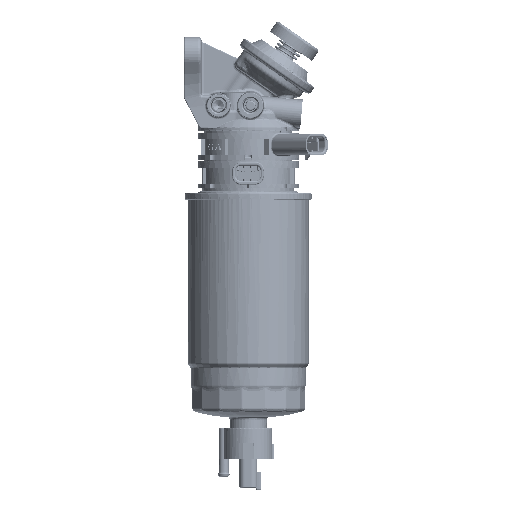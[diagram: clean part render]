
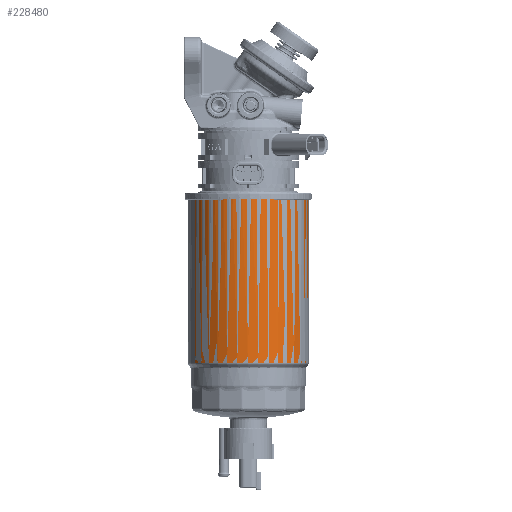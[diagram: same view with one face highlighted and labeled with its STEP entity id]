
A CAD part, top view. The second image highlights one B-rep face of the part: STEP entity #228480.
In plain terms, the highlighted cylindrical face has radius 47.4 mm (diameter 94.8 mm), a partial arc.
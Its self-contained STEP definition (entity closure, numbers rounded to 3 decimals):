
#228348=CARTESIAN_POINT('Vertex',(24.185,-29.5,40.766)) ;
#228351=CARTESIAN_POINT('Axis2P3D Location',(0.,-29.5,0.)) ;
#228355=CARTESIAN_POINT('Vertex',(-41.181,-29.5,23.47)) ;
#228387=CARTESIAN_POINT('Vertex',(41.181,-29.5,-23.47)) ;
#228390=CARTESIAN_POINT('Axis2P3D Location',(0.,-29.5,0.)) ;
#228408=CARTESIAN_POINT('Line Origine',(-41.181,-91.9,23.47)) ;
#228412=CARTESIAN_POINT('Vertex',(-41.181,-157.672,23.47)) ;
#228438=CARTESIAN_POINT('Vertex',(41.181,-157.672,-23.47)) ;
#228441=CARTESIAN_POINT('Line Origine',(41.181,-91.9,-23.47)) ;
#228455=CARTESIAN_POINT('Axis2P3D Location',(0.,-91.9,0.)) ;
#228460=CARTESIAN_POINT('Axis2P3D Location',(0.,-157.672,0.)) ;
#228464=CARTESIAN_POINT('Vertex',(23.47,-157.672,41.181)) ;
#228467=CARTESIAN_POINT('Axis2P3D Location',(0.,-157.672,0.)) ;
#228352=DIRECTION('Axis2P3D Direction',(0.,-1.,0.)) ;
#228391=DIRECTION('Axis2P3D Direction',(0.,-1.,0.)) ;
#228409=DIRECTION('Vector Direction',(0.,-1.,0.)) ;
#228442=DIRECTION('Vector Direction',(0.,-1.,0.)) ;
#228456=DIRECTION('Axis2P3D Direction',(0.,-1.,0.)) ;
#228457=DIRECTION('Axis2P3D XDirection',(0.869,0.,-0.495)) ;
#228461=DIRECTION('Axis2P3D Direction',(0.,-1.,0.)) ;
#228468=DIRECTION('Axis2P3D Direction',(0.,-1.,0.)) ;
#228353=AXIS2_PLACEMENT_3D('Circle Axis2P3D',#228351,#228352,$) ;
#228392=AXIS2_PLACEMENT_3D('Circle Axis2P3D',#228390,#228391,$) ;
#228458=AXIS2_PLACEMENT_3D('Cylinder Axis2P3D',#228455,#228456,#228457) ;
#228462=AXIS2_PLACEMENT_3D('Circle Axis2P3D',#228460,#228461,$) ;
#228469=AXIS2_PLACEMENT_3D('Circle Axis2P3D',#228467,#228468,$) ;
#228473=ORIENTED_EDGE('',*,*,#228357,.F.) ;
#228474=ORIENTED_EDGE('',*,*,#228394,.F.) ;
#228475=ORIENTED_EDGE('',*,*,#228445,.T.) ;
#228476=ORIENTED_EDGE('',*,*,#228466,.T.) ;
#228477=ORIENTED_EDGE('',*,*,#228471,.T.) ;
#228478=ORIENTED_EDGE('',*,*,#228414,.T.) ;
#228410=VECTOR('Line Direction',#228409,1.) ;
#228443=VECTOR('Line Direction',#228442,1.) ;
#228480=ADVANCED_FACE('CLOSED_SHELL #115528',(#228479),#228459,.F.) ;
#228354=CIRCLE('generated circle',#228353,47.4) ;
#228393=CIRCLE('generated circle',#228392,47.4) ;
#228463=CIRCLE('generated circle',#228462,47.4) ;
#228470=CIRCLE('generated circle',#228469,47.4) ;
#228459=CYLINDRICAL_SURFACE('generated cylinder',#228458,47.4) ;
#228357=EDGE_CURVE('',#228349,#228356,#228354,.T.) ;
#228394=EDGE_CURVE('',#228388,#228349,#228393,.T.) ;
#228414=EDGE_CURVE('',#228413,#228356,#228411,.F.) ;
#228445=EDGE_CURVE('',#228388,#228439,#228444,.T.) ;
#228466=EDGE_CURVE('',#228439,#228465,#228463,.T.) ;
#228471=EDGE_CURVE('',#228465,#228413,#228470,.T.) ;
#228472=EDGE_LOOP('',(#228473,#228474,#228475,#228476,#228477,#228478)) ;
#228479=FACE_OUTER_BOUND('',#228472,.T.) ;
#228411=LINE('Line',#228408,#228410) ;
#228444=LINE('Line',#228441,#228443) ;
#228349=VERTEX_POINT('',#228348) ;
#228356=VERTEX_POINT('',#228355) ;
#228388=VERTEX_POINT('',#228387) ;
#228413=VERTEX_POINT('',#228412) ;
#228439=VERTEX_POINT('',#228438) ;
#228465=VERTEX_POINT('',#228464) ;
